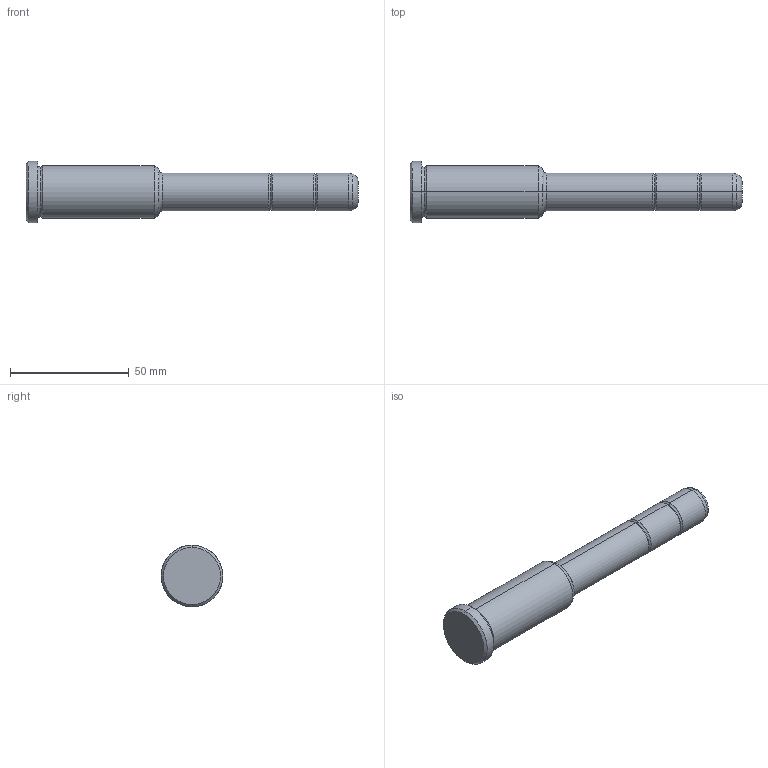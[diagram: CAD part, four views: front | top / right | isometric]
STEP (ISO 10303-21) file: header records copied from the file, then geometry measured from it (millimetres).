
FILE_DESCRIPTION(('CATIA V5 STEP Exchange'),'2;1');
FILE_NAME('C:\Users\Utente\Desktop\IO LAVORO\3D X SITO CF\X SITO\PLASTICA\351\351-16X56X140.stp','2021-08-18T11:49:56+00:00',('none'),('none'),'CATIA Version 5 Release 20 GA (IN-10)','CATIA V5 STEP AP203','none');
FILE_SCHEMA(('CONFIG_CONTROL_DESIGN'));
Length unit declared in the file: millimetre
Products named in the file (1): 351-16X56X140
Bounding box: 140 x 26 x 26 mm (x, y, z)
Volume: 38591.2 mm3; surface area: 9038.8 mm2
Topology: 1 solids, 1 shells, 36 faces, 102 edges, 70 vertices
Faces by surface type: torus 16, cylinder 10, cone 6, plane 4
Entity records: 1292 total; most frequent: CARTESIAN_POINT 321, ORIENTED_EDGE 204, DIRECTION 166, AXIS2_PLACEMENT_3D 115, EDGE_CURVE 102, CIRCLE 78, VERTEX_POINT 70, EDGE_LOOP 38
